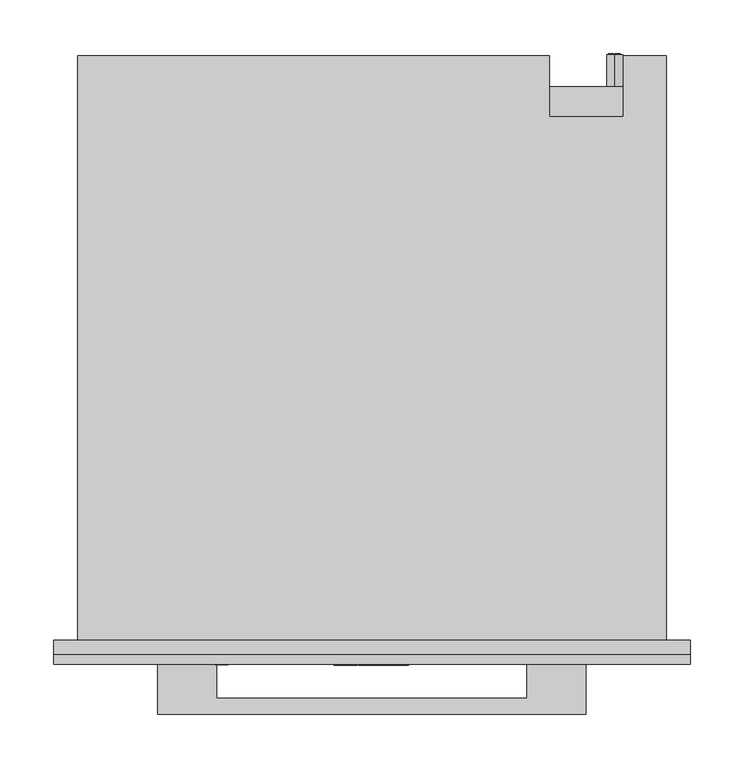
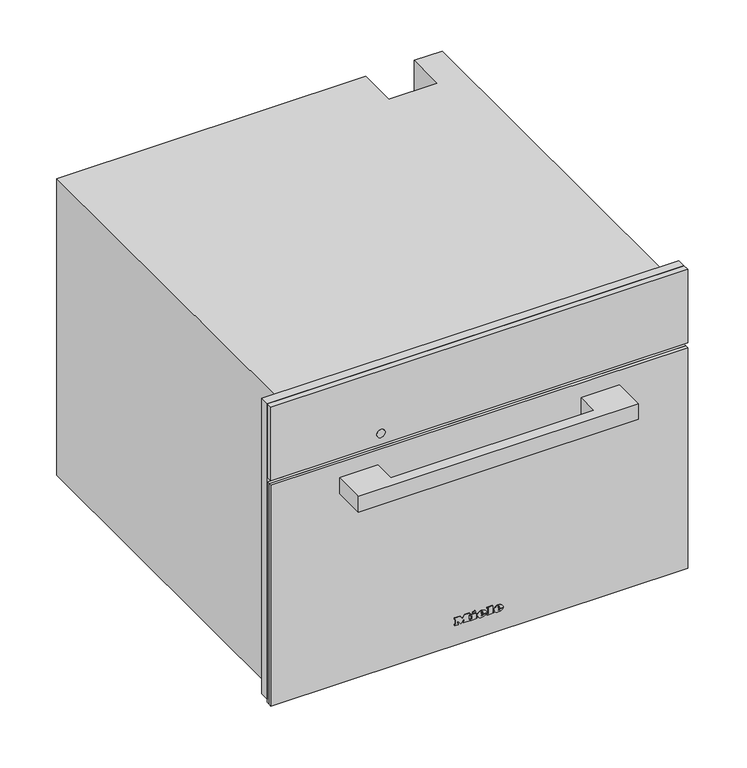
"""IFC4 building model written with IfcOpenShell, lengths in millimetres: proxy geometry, 12095020_F_DGC7840HCPro_OBSW : 23784028_F_12095020_DGC7840HCPro_OBSW."""

from ifc_helpers import new_model, si_unit, point, frame, frame_2d, origin, place, context, project, spatial, polyline, circle_curve, ellipse_curve, trimmed, segment, composite_curve, outline, extrude, faceted_brep, source, transform, mapped, element, save
from ifc_brep_helpers import plane_surface, cylinder_surface, revolved_surface, extruded_surface, advanced_brep


def specialty_equipment_197ef401(model_context):
    return source(origin(), model_context, "Body", "SolidModel", [
        extrude(outline(polyline([(455.0, 297.5), (455.0, -297.5), (9.0, -297.5), (9.0, 297.5), (455.0, 297.5)]), holes=[polyline([(344.0, -272.5), (344.0, 272.5), (27.0, 272.5), (27.0, -272.5), (344.0, -272.5)])]), frame((0.0, -13.0, 0.0), z_axis=(0.0, 1.0, 0.0), x_axis=(0.0, 0.0, 1.0)), (0.0, 0.0, 1.0), 13.0),
        advanced_brep(
        [(227.0, 547.0, 255.5), (227.0, 547.0, 240.5), (221.4098301, 547.0, 243.0), (225.5, 547.0, 243.0), (225.5, 547.0, 253.0), (224.4955303, 547.0, 253.0), (224.4955303, 547.0, 244.0), (221.0315043, 547.0, 244.0), (221.0315043, 547.0, 243.4582978), (232.0, 547.0, 243.0), (232.0, 547.0, 253.0), (227.0, 547.0, 253.0), (227.0, 547.0, 252.0), (231.0, 547.0, 252.0), (231.0, 547.0, 248.5), (228.0, 547.0, 248.5), (228.0, 547.0, 247.5), (231.0, 547.0, 247.5), (231.0, 547.0, 244.0), (227.0, 547.0, 244.0), (227.0, 547.0, 243.0), (227.0, 517.0, 240.5), (227.0, 517.0, 255.5), (232.0, 548.0, 253.0), (232.0, 548.0, 243.0), (227.0, 548.0, 243.0), (227.0, 548.0, 244.0), (231.0, 548.0, 244.0), (231.0, 548.0, 247.5), (228.0, 548.0, 247.5), (228.0, 548.0, 248.5), (231.0, 548.0, 248.5), (231.0, 548.0, 252.0), (227.0, 548.0, 252.0), (227.0, 548.0, 253.0), (225.5, 548.0, 243.0), (221.0315043, 548.0, 243.0), (221.0315043, 548.0, 244.0), (224.4955303, 548.0, 244.0), (224.4955303, 548.0, 253.0), (225.5, 548.0, 253.0), (221.0315043, 547.0, 243.0)],
        [
            (0, 1, circle_curve(frame((227.0, 547.0, 248.0), z_axis=(0.0, 1.0, 0.0), x_axis=(0.0, 0.0, 1.0)), 7.5)),
            (1, 2, circle_curve(frame((227.0, 547.0, 248.0), z_axis=(0.0, 1.0, 0.0), x_axis=(0.0, 0.0, 1.0)), 7.5)),
            (2, 3),
            (3, 4),
            (4, 5),
            (5, 6),
            (6, 7),
            (7, 8),
            (8, 0, circle_curve(frame((227.0, 547.0, 248.0), z_axis=(0.0, 1.0, 0.0), x_axis=(0.0, 0.0, 1.0)), 7.5)),
            (9, 10),
            (10, 11),
            (11, 12),
            (12, 13),
            (13, 14),
            (14, 15),
            (15, 16),
            (16, 17),
            (17, 18),
            (18, 19),
            (19, 20),
            (20, 9),
            (21, 22, circle_curve(frame((227.0, 517.0, 248.0), z_axis=(0.0, -1.0, 0.0), x_axis=(0.0, 0.0, 1.0)), 7.5)),
            (22, 21, circle_curve(frame((227.0, 517.0, 248.0), z_axis=(0.0, -1.0, 0.0), x_axis=(0.0, 0.0, 1.0)), 7.5)),
            (0, 22),
            (21, 1),
            (8, 2, circle_curve(frame((227.0, 547.0, 248.0), z_axis=(0.0, -1.0, 0.0), x_axis=(0.0, 0.0, 1.0)), 7.5)),
            (23, 24),
            (24, 25),
            (25, 26),
            (26, 27),
            (27, 28),
            (28, 29),
            (29, 30),
            (30, 31),
            (31, 32),
            (32, 33),
            (33, 34),
            (34, 23),
            (35, 36),
            (36, 37),
            (37, 38),
            (38, 39),
            (39, 40),
            (40, 35),
            (8, 41),
            (41, 2),
            (23, 10),
            (9, 24),
            (20, 25),
            (19, 26),
            (18, 27),
            (17, 28),
            (16, 29),
            (15, 30),
            (14, 31),
            (13, 32),
            (12, 33),
            (11, 34),
            (35, 3),
            (41, 36),
            (7, 37),
            (6, 38),
            (5, 39),
            (4, 40),
        ],
        [
            plane_surface(frame((227.0, 547.0, 255.5), z_axis=(0.0, 1.0, 0.0), x_axis=(1.0, 0.0, 0.0))),
            plane_surface(frame((227.0, 517.0, 255.5), z_axis=(0.0, -1.0, 0.0), x_axis=(-1.0, 0.0, 0.0))),
            cylinder_surface(frame((227.0, 547.0, 248.0), z_axis=(0.0, -1.0, 0.0), x_axis=(0.0, 0.0, 1.0)), 7.5),
            plane_surface(frame((232.0, 548.0, 253.0), z_axis=(0.0, 1.0, 0.0), x_axis=(0.0, 0.0, -1.0))),
            plane_surface(frame((232.0, 547.0, 253.0), z_axis=(0.0, -1.0, 0.0), x_axis=(0.0, 0.0, 1.0))),
            plane_surface(frame((232.0, 548.0, 253.0), z_axis=(1.0, 0.0, 0.0), x_axis=(0.0, -1.0, 0.0))),
            plane_surface(frame((232.0, 548.0, 243.0), z_axis=(0.0, 0.0, -1.0), x_axis=(0.0, -1.0, 0.0))),
            plane_surface(frame((227.0, 548.0, 243.0), z_axis=(-1.0, 0.0, 0.0), x_axis=(0.0, -1.0, 0.0))),
            plane_surface(frame((227.0, 548.0, 244.0), z_axis=(0.0, 0.0, 1.0), x_axis=(0.0, -1.0, 0.0))),
            plane_surface(frame((231.0, 548.0, 244.0), z_axis=(-1.0, 0.0, 0.0), x_axis=(0.0, -1.0, 0.0))),
            plane_surface(frame((231.0, 548.0, 247.5), z_axis=(0.0, 0.0, -1.0), x_axis=(0.0, -1.0, 0.0))),
            plane_surface(frame((228.0, 548.0, 247.5), z_axis=(-1.0, 0.0, 0.0), x_axis=(0.0, -1.0, 0.0))),
            plane_surface(frame((228.0, 548.0, 248.5), z_axis=(0.0, 0.0, 1.0), x_axis=(0.0, -1.0, 0.0))),
            plane_surface(frame((231.0, 548.0, 248.5), z_axis=(-1.0, 0.0, 0.0), x_axis=(0.0, -1.0, 0.0))),
            plane_surface(frame((231.0, 548.0, 252.0), z_axis=(0.0, 0.0, -1.0), x_axis=(0.0, -1.0, 0.0))),
            plane_surface(frame((227.0, 548.0, 252.0), z_axis=(-1.0, 0.0, 0.0), x_axis=(0.0, -1.0, 0.0))),
            plane_surface(frame((227.0, 548.0, 253.0), z_axis=(0.0, 0.0, 1.0), x_axis=(0.0, -1.0, 0.0))),
            plane_surface(frame((225.5, 548.0, 243.0), z_axis=(0.0, 0.0, -1.0), x_axis=(0.0, -1.0, 0.0))),
            plane_surface(frame((221.0315043, 548.0, 243.0), z_axis=(-1.0, 0.0, 0.0), x_axis=(0.0, -1.0, 0.0))),
            plane_surface(frame((221.0315043, 548.0, 244.0), z_axis=(0.0, 0.0, 1.0), x_axis=(0.0, -1.0, 0.0))),
            plane_surface(frame((224.4955303, 548.0, 244.0), z_axis=(-1.0, 0.0, 0.0), x_axis=(0.0, -1.0, 0.0))),
            plane_surface(frame((224.4955303, 548.0, 253.0), z_axis=(0.0, 0.0, 1.0), x_axis=(0.0, -1.0, 0.0))),
            plane_surface(frame((225.5, 548.0, 253.0), z_axis=(1.0, 0.0, 0.0), x_axis=(0.0, -1.0, 0.0))),
        ],
        [
            (0, [[1, 2, 3, 4, 5, 6, 7, 8, 9], [10, 11, 12, 13, 14, 15, 16, 17, 18, 19, 20, 21]]),
            (1, [[22, 23]]),
            (2, [[-1, 24, -22, 25]]),
            (2, [[-23, -24, -9, 26, -2, -25]]),
            (3, [[27, 28, 29, 30, 31, 32, 33, 34, 35, 36, 37, 38]]),
            (3, [[39, 40, 41, 42, 43, 44]]),
            (4, [[45, 46, -26]]),
            (5, [[-27, 47, -10, 48]]),
            (6, [[-28, -48, -21, 49]]),
            (7, [[-29, -49, -20, 50]]),
            (8, [[-30, -50, -19, 51]]),
            (9, [[-31, -51, -18, 52]]),
            (10, [[-32, -52, -17, 53]]),
            (11, [[-33, -53, -16, 54]]),
            (12, [[-34, -54, -15, 55]]),
            (13, [[-35, -55, -14, 56]]),
            (14, [[-36, -56, -13, 57]]),
            (15, [[-37, -57, -12, 58]]),
            (16, [[-38, -58, -11, -47]]),
            (17, [[-39, 59, -3, -46, 60]]),
            (18, [[-40, -60, -45, -8, 61]]),
            (19, [[-41, -61, -7, 62]]),
            (20, [[-42, -62, -6, 63]]),
            (21, [[-43, -63, -5, 64]]),
            (22, [[-44, -64, -4, -59]]),
        ],
    ),
        faceted_brep([(-275.0, 546.0, 0.0), (-275.0, 546.0, 448.0), (166.0, 546.0, 448.0), (166.0, 546.0, 0.0), (235.0, 546.0, 448.0), (275.0, 546.0, 448.0), (275.0, 546.0, 338.0), (235.0, 546.0, 338.0), (275.0, 0.0, 448.0), (-275.0, 0.0, 448.0), (-275.0, 0.0, 0.0), (275.0, 0.0, 0.0), (-272.5, 0.0, 344.0), (272.5, 0.0, 344.0), (272.5, 0.0, 27.0), (-272.5, 0.0, 27.0), (235.0, 489.0, 448.0), (166.0, 489.0, 448.0), (166.0, 517.0, 0.0), (275.0, 517.0, 0.0), (275.0, 517.0, 338.0), (272.5, 17.0, 344.0), (-272.5, 17.0, 344.0), (-272.5, 17.0, 27.0), (272.5, 17.0, 27.0), (231.0, 17.0, 307.0), (231.0, 17.0, 65.0), (-231.0, 17.0, 65.0), (-231.0, 17.0, 307.0), (231.0, 411.0, 307.0), (-231.0, 411.0, 307.0), (-231.0, 411.0, 65.0), (231.0, 411.0, 65.0), (235.0, 489.0, 337.0), (166.0, 489.0, 337.0), (166.0, 517.0, 337.0), (235.0, 517.0, 337.0), (235.0, 517.0, 338.0)], [[[0, 1, 2, 3]], [[4, 5, 6, 7]], [[8, 9, 10, 11], [12, 13, 14, 15]], [[9, 8, 5, 4, 16, 17, 2, 1]], [[1, 0, 10, 9]], [[11, 10, 0, 3, 18, 19]], [[8, 11, 19, 20, 6, 5]], [[21, 22, 23, 24], [25, 26, 27, 28]], [[22, 21, 13, 12]], [[23, 22, 12, 15]], [[24, 23, 15, 14]], [[21, 24, 14, 13]], [[29, 30, 31, 32]], [[29, 32, 26, 25]], [[32, 31, 27, 26]], [[31, 30, 28, 27]], [[30, 29, 25, 28]], [[16, 33, 34, 17]], [[17, 34, 35, 18, 3, 2]], [[34, 33, 36, 35]], [[33, 16, 4, 7, 37, 36]], [[37, 20, 19, 18, 35, 36]], [[20, 37, 7, 6]]]),
        advanced_brep(
        [(26.2998, -23.0, 36.7018), (26.2998, -23.0, 37.8532), (33.9264, -23.0, 37.8532), (20.6568, -23.0, 37.8532), (23.7918, -23.0, 34.0), (33.7326, -23.0, 36.7018), (30.2898, -23.0, 36.7018), (27.5766, -23.0, 35.425), (26.2998, -23.0, 39.3124), (26.2998, -23.0, 40.555), (28.2492, -23.0, 40.555), (28.2492, -23.0, 39.3124), (26.2998, -22.0, 36.7018), (27.5766, -22.0, 35.425), (30.2898, -22.0, 36.7018), (33.7326, -22.0, 36.7018), (23.7918, -22.0, 34.0), (20.6568, -22.0, 37.8532), (33.9264, -22.0, 37.8532), (26.2998, -22.0, 37.8532), (26.2998, -22.0, 39.3124), (28.2492, -22.0, 39.3124), (28.2492, -22.0, 40.555), (26.2998, -22.0, 40.555)],
        [
            (0, 1),
            (1, 2),
            (2, 3, ellipse_curve(frame((27.2916, -23.0, 37.8532), z_axis=(0.0, -1.0, 0.0), x_axis=(-1.0, 0.0, 0.0)), 6.6348, 5.4834)),
            (3, 4, circle_curve(frame((25.0686622, -23.0, 38.2408), z_axis=(0.0, -1.0, 0.0), x_axis=(0.0, 0.0, -1.0)), 4.4288556)),
            (4, 5, circle_curve(frame((27.1587808, -23.0, 41.2504), z_axis=(0.0, -1.0, 0.0), x_axis=(0.0, 0.0, -1.0)), 7.9940516)),
            (5, 6),
            (6, 7, circle_curve(frame((28.1338588, -23.0, 37.762), z_axis=(0.0, 1.0, 0.0), x_axis=(0.0, 0.0, -1.0)), 2.4025208)),
            (7, 0, circle_curve(frame((27.5766, -23.0, 36.7018), z_axis=(0.0, 1.0, 0.0), x_axis=(0.0, 0.0, -1.0)), 1.2768)),
            (8, 9),
            (9, 10, circle_curve(frame((27.2745, -23.0, 40.555), z_axis=(0.0, 1.0, 0.0), x_axis=(0.0, 0.0, -1.0)), 0.9747)),
            (10, 11),
            (11, 8),
            (12, 13, circle_curve(frame((27.5766, -22.0, 36.7018), z_axis=(0.0, -1.0, 0.0), x_axis=(0.0, 0.0, -1.0)), 1.2768)),
            (13, 14, circle_curve(frame((28.1338588, -22.0, 37.762), z_axis=(0.0, -1.0, 0.0), x_axis=(0.0, 0.0, -1.0)), 2.4025208)),
            (14, 15),
            (15, 16, circle_curve(frame((27.1587808, -22.0, 41.2504), z_axis=(0.0, 1.0, 0.0), x_axis=(0.0, 0.0, -1.0)), 7.9940516)),
            (16, 17, circle_curve(frame((25.0686622, -22.0, 38.2408), z_axis=(0.0, 1.0, 0.0), x_axis=(0.0, 0.0, -1.0)), 4.4288556)),
            (17, 18, ellipse_curve(frame((27.2916, -22.0, 37.8532), z_axis=(0.0, 1.0, 0.0), x_axis=(-1.0, 0.0, 0.0)), 6.6348, 5.4834)),
            (18, 19),
            (19, 12),
            (20, 21),
            (21, 22),
            (22, 23, circle_curve(frame((27.2745, -22.0, 40.555), z_axis=(0.0, -1.0, 0.0), x_axis=(0.0, 0.0, -1.0)), 0.9747)),
            (23, 20),
            (0, 12),
            (19, 1),
            (18, 2),
            (5, 15),
            (14, 6),
            (17, 3),
            (13, 7),
            (16, 4),
            (8, 20),
            (23, 9),
            (22, 10),
            (21, 11),
        ],
        [
            plane_surface(frame((26.2998, -23.0, 37.8532), z_axis=(0.0, -1.0, 0.0), x_axis=(0.0, 0.0, 1.0))),
            plane_surface(frame((26.2998, -22.0, 37.8532), z_axis=(0.0, 1.0, 0.0), x_axis=(0.0, 0.0, -1.0))),
            plane_surface(frame((26.2998, -23.0, 36.7018), z_axis=(1.0, 0.0, 0.0), x_axis=(0.0, 1.0, 0.0))),
            plane_surface(frame((26.2998, -23.0, 37.8532), z_axis=(0.0, 0.0, -1.0), x_axis=(0.0, 1.0, 0.0))),
            plane_surface(frame((33.7326, -23.0, 36.7018), z_axis=(0.0, 0.0, 1.0), x_axis=(0.0, 1.0, 0.0))),
            extruded_surface(trimmed(ellipse_curve(frame((27.2916, -21.0, 37.8532), z_axis=(0.0, -1.0, 0.0), x_axis=(-1.0, 0.0, 0.0)), 6.6348, 5.4834), [point((33.9264, -21.0, 37.8532))], [point((20.6568, -21.0, 37.8532))], True, "CARTESIAN"), (0.0, -1.0, 0.0), 1.0),
            revolved_surface(polyline([(28.1338588, -22.0, 35.3594792), (28.1338588, -23.0, 35.3594792)]), (28.1338588, -22.0, 37.762), (0.0, 1.0, 0.0)),
            revolved_surface(polyline([(27.5766, -22.0, 35.425), (27.5766, -23.0, 35.425)]), (27.5766, -22.0, 36.7018), (0.0, 1.0, 0.0)),
            cylinder_surface(frame((25.0686622, -22.0, 38.2408), z_axis=(0.0, -1.0, 0.0), x_axis=(0.0, 0.0, -1.0)), 4.4288556),
            cylinder_surface(frame((27.1587808, -22.0, 41.2504), z_axis=(0.0, -1.0, 0.0), x_axis=(0.0, 0.0, -1.0)), 7.9940516),
            plane_surface(frame((26.2998, -23.0, 39.3124), z_axis=(1.0, 0.0, 0.0), x_axis=(0.0, 1.0, 0.0))),
            revolved_surface(polyline([(27.2745, -22.0, 39.5803), (27.2745, -23.0, 39.5803)]), (27.2745, -22.0, 40.555), (0.0, 1.0, 0.0)),
            plane_surface(frame((28.2492, -23.0, 40.555), z_axis=(-1.0, 0.0, 0.0), x_axis=(0.0, 1.0, 0.0))),
            plane_surface(frame((28.2492, -23.0, 39.3124), z_axis=(0.0, 0.0, 1.0), x_axis=(0.0, 1.0, 0.0))),
        ],
        [
            (0, [[1, 2, 3, 4, 5, 6, 7, 8], [9, 10, 11, 12]]),
            (1, [[13, 14, 15, 16, 17, 18, 19, 20], [21, 22, 23, 24]]),
            (2, [[-1, 25, -20, 26]]),
            (3, [[-2, -26, -19, 27]]),
            (4, [[-6, 28, -15, 29]]),
            (5, [[-3, -27, -18, 30]]),
            (6, [[-7, -29, -14, 31]]),
            (7, [[-8, -31, -13, -25]]),
            (8, [[-4, -30, -17, 32]]),
            (9, [[-5, -32, -16, -28]]),
            (10, [[-9, 33, -24, 34]]),
            (11, [[-10, -34, -23, 35]]),
            (12, [[-11, -35, -22, 36]]),
            (13, [[-12, -36, -21, -33]]),
        ],
    ),
        advanced_brep(
        [(2.508, -23.0, 36.7018), (2.508, -23.0, 37.8532), (10.1346, -23.0, 37.8532), (-3.135, -23.0, 37.8532), (0.0, -23.0, 34.0), (9.9408, -23.0, 36.7018), (6.498, -23.0, 36.7018), (3.7848, -23.0, 35.425), (2.508, -23.0, 39.3124), (2.508, -23.0, 40.555), (4.4574, -23.0, 40.555), (4.4574, -23.0, 39.3124), (2.508, -22.0, 36.7018), (3.7848, -22.0, 35.425), (6.498, -22.0, 36.7018), (9.9408, -22.0, 36.7018), (0.0, -22.0, 34.0), (-3.135, -22.0, 37.8532), (10.1346, -22.0, 37.8532), (2.508, -22.0, 37.8532), (2.508, -22.0, 39.3124), (4.4574, -22.0, 39.3124), (4.4574, -22.0, 40.555), (2.508, -22.0, 40.555)],
        [
            (0, 1),
            (1, 2),
            (2, 3, ellipse_curve(frame((3.4998, -23.0, 37.8532), z_axis=(0.0, -1.0, 0.0), x_axis=(-1.0, 0.0, 0.0)), 6.6348, 5.4834)),
            (3, 4, circle_curve(frame((1.2768622, -23.0, 38.2408), z_axis=(0.0, -1.0, 0.0), x_axis=(0.0, 0.0, -1.0)), 4.4288556)),
            (4, 5, circle_curve(frame((3.3669808, -23.0, 41.2504), z_axis=(0.0, -1.0, 0.0), x_axis=(0.0, 0.0, -1.0)), 7.9940516)),
            (5, 6),
            (6, 7, circle_curve(frame((4.3420588, -23.0, 37.762), z_axis=(0.0, 1.0, 0.0), x_axis=(0.0, 0.0, -1.0)), 2.4025208)),
            (7, 0, circle_curve(frame((3.7848, -23.0, 36.7018), z_axis=(0.0, 1.0, 0.0), x_axis=(0.0, 0.0, -1.0)), 1.2768)),
            (8, 9),
            (9, 10, circle_curve(frame((3.4827, -23.0, 40.555), z_axis=(0.0, 1.0, 0.0), x_axis=(0.0, 0.0, -1.0)), 0.9747)),
            (10, 11),
            (11, 8),
            (12, 13, circle_curve(frame((3.7848, -22.0, 36.7018), z_axis=(0.0, -1.0, 0.0), x_axis=(0.0, 0.0, -1.0)), 1.2768)),
            (13, 14, circle_curve(frame((4.3420588, -22.0, 37.762), z_axis=(0.0, -1.0, 0.0), x_axis=(0.0, 0.0, -1.0)), 2.4025208)),
            (14, 15),
            (15, 16, circle_curve(frame((3.3669808, -22.0, 41.2504), z_axis=(0.0, 1.0, 0.0), x_axis=(0.0, 0.0, -1.0)), 7.9940516)),
            (16, 17, circle_curve(frame((1.2768622, -22.0, 38.2408), z_axis=(0.0, 1.0, 0.0), x_axis=(0.0, 0.0, -1.0)), 4.4288556)),
            (17, 18, ellipse_curve(frame((3.4998, -22.0, 37.8532), z_axis=(0.0, 1.0, 0.0), x_axis=(-1.0, 0.0, 0.0)), 6.6348, 5.4834)),
            (18, 19),
            (19, 12),
            (20, 21),
            (21, 22),
            (22, 23, circle_curve(frame((3.4827, -22.0, 40.555), z_axis=(0.0, -1.0, 0.0), x_axis=(0.0, 0.0, -1.0)), 0.9747)),
            (23, 20),
            (0, 12),
            (19, 1),
            (18, 2),
            (5, 15),
            (14, 6),
            (17, 3),
            (13, 7),
            (16, 4),
            (8, 20),
            (23, 9),
            (22, 10),
            (21, 11),
        ],
        [
            plane_surface(frame((2.508, -23.0, 37.8532), z_axis=(0.0, -1.0, 0.0), x_axis=(0.0, 0.0, 1.0))),
            plane_surface(frame((2.508, -22.0, 37.8532), z_axis=(0.0, 1.0, 0.0), x_axis=(0.0, 0.0, -1.0))),
            plane_surface(frame((2.508, -23.0, 36.7018), z_axis=(1.0, 0.0, 0.0), x_axis=(0.0, 1.0, 0.0))),
            plane_surface(frame((2.508, -23.0, 37.8532), z_axis=(0.0, 0.0, -1.0), x_axis=(0.0, 1.0, 0.0))),
            plane_surface(frame((9.9408, -23.0, 36.7018), z_axis=(0.0, 0.0, 1.0), x_axis=(0.0, 1.0, 0.0))),
            extruded_surface(trimmed(ellipse_curve(frame((3.4998, -21.0, 37.8532), z_axis=(0.0, -1.0, 0.0), x_axis=(-1.0, 0.0, 0.0)), 6.6348, 5.4834), [point((10.1346, -21.0, 37.8532))], [point((-3.135, -21.0, 37.8532))], True, "CARTESIAN"), (0.0, -1.0, 0.0), 1.0),
            revolved_surface(polyline([(4.3420588, -22.0, 35.3594792), (4.3420588, -23.0, 35.3594792)]), (4.3420588, -22.0, 37.762), (0.0, 1.0, 0.0)),
            revolved_surface(polyline([(3.7848, -22.0, 35.425), (3.7848, -23.0, 35.425)]), (3.7848, -22.0, 36.7018), (0.0, 1.0, 0.0)),
            cylinder_surface(frame((1.2768622, -22.0, 38.2408), z_axis=(0.0, -1.0, 0.0), x_axis=(0.0, 0.0, -1.0)), 4.4288556),
            cylinder_surface(frame((3.3669808, -22.0, 41.2504), z_axis=(0.0, -1.0, 0.0), x_axis=(0.0, 0.0, -1.0)), 7.9940516),
            plane_surface(frame((2.508, -23.0, 39.3124), z_axis=(1.0, 0.0, 0.0), x_axis=(0.0, 1.0, 0.0))),
            revolved_surface(polyline([(3.4827, -22.0, 39.5803), (3.4827, -23.0, 39.5803)]), (3.4827, -22.0, 40.555), (0.0, 1.0, 0.0)),
            plane_surface(frame((4.4574, -23.0, 40.555), z_axis=(-1.0, 0.0, 0.0), x_axis=(0.0, 1.0, 0.0))),
            plane_surface(frame((4.4574, -23.0, 39.3124), z_axis=(0.0, 0.0, 1.0), x_axis=(0.0, 1.0, 0.0))),
        ],
        [
            (0, [[1, 2, 3, 4, 5, 6, 7, 8], [9, 10, 11, 12]]),
            (1, [[13, 14, 15, 16, 17, 18, 19, 20], [21, 22, 23, 24]]),
            (2, [[-1, 25, -20, 26]]),
            (3, [[-2, -26, -19, 27]]),
            (4, [[-6, 28, -15, 29]]),
            (5, [[-3, -27, -18, 30]]),
            (6, [[-7, -29, -14, 31]]),
            (7, [[-8, -31, -13, -25]]),
            (8, [[-4, -30, -17, 32]]),
            (9, [[-5, -32, -16, -28]]),
            (10, [[-9, 33, -24, 34]]),
            (11, [[-10, -34, -23, 35]]),
            (12, [[-11, -35, -22, 36]]),
            (13, [[-12, -36, -21, -33]]),
        ],
    ),
        extrude(outline(polyline([(44.7274, -9.9522), (42.8806, -9.0858), (44.6818, -5.2212), (46.5286, -6.0762), (44.7274, -9.9522)])), frame((0.0, -23.0, 0.0), z_axis=(0.0, 1.0, 0.0), x_axis=(0.0, 0.0, 1.0)), (0.0, 0.0, 1.0), 1.0),
        extrude(outline(polyline([(42.6298, -12.768), (40.5892, -12.768), (40.5892, -11.4114), (35.9152, -11.4114), (35.9152, -12.768), (34.0, -12.768), (34.0, -3.7734), (35.9152, -3.7734), (35.9152, -5.0958), (42.6298, -5.0958), (42.6298, -12.768)])), frame((0.0, -23.0, 0.0), z_axis=(0.0, 1.0, 0.0), x_axis=(0.0, 0.0, 1.0)), (0.0, 0.0, 1.0), 1.0),
        extrude(outline(polyline([(43.5418, 10.773), (43.5418, 12.141), (35.9152, 12.141), (35.9152, 10.773), (34.0, 10.773), (34.0, 20.0184), (35.9152, 20.0184), (35.9152, 18.6162), (45.4, 18.6162), (45.4, 10.773), (43.5418, 10.773)])), frame((0.0, -23.0, 0.0), z_axis=(0.0, 1.0, 0.0), x_axis=(0.0, 0.0, 1.0)), (0.0, 0.0, 1.0), 1.0),
        extrude(outline(polyline([(43.5418, -35.4882), (43.5418, -34.1088), (35.9152, -34.1088), (35.9152, -35.4882), (34.0, -35.4882), (34.0, -30.4722), (35.9152, -30.4722), (35.9152, -31.8402), (40.7429247, -31.8402), (34.0, -26.7444), (40.9402223, -21.6258), (35.9152, -21.6258), (35.9152, -23.028), (34.0, -23.028), (34.0, -13.9308), (35.9152, -13.9308), (35.9152, -15.3786), (43.5418, -15.3786), (43.5418, -13.9308), (45.4, -13.9308), (45.4, -20.8734), (41.125, -24.2022), (45.4, -27.5424), (45.4, -35.4882), (43.5418, -35.4882)])), frame((0.0, -23.0, 0.0), z_axis=(0.0, 1.0, 0.0), x_axis=(0.0, 0.0, 1.0)), (0.0, 0.0, 1.0), 1.0),
        extrude(outline(polyline([(297.5, -22.0), (-297.5, -22.0), (-297.5, -13.0), (297.5, -13.0), (297.5, -22.0)])), frame((0.0, 0.0, 344.0), z_axis=(0.0, 0.0, 1.0), x_axis=(1.0, 0.0, 0.0)), (0.0, 0.0, 1.0), 111.0),
        extrude(outline(composite_curve([segment(trimmed(circle_curve(frame_2d((361.0, -140.5745637)), 6.0), [point((361.0, -146.5745637))], [point((361.0, -134.5745637))], False, "CARTESIAN"), True, "CONTINUOUS"), segment(trimmed(circle_curve(frame_2d((361.0, -140.5745637)), 6.0), [point((361.0, -134.5745637))], [point((361.0, -146.5745637))], False, "CARTESIAN"), True, "CONTINUOUS")], self_intersect=False)), frame((0.0, -22.5, 0.0), z_axis=(0.0, 1.0, 0.0), x_axis=(0.0, 0.0, 1.0)), (0.0, 0.0, 1.0), 1.0),
        extrude(outline(polyline([(-297.5, -18.0), (297.5, -18.0), (297.5, -22.0), (-297.5, -22.0), (-297.5, -18.0)])), frame((0.0, 0.0, 4.0), z_axis=(0.0, 0.0, 1.0), x_axis=(1.0, 0.0, 0.0)), (0.0, 0.0, 1.0), 333.0),
        extrude(outline(polyline([(297.5, -18.0), (-297.5, -18.0), (-297.5, -13.0), (297.5, -13.0), (297.5, -18.0)])), frame((0.0, 0.0, 4.0), z_axis=(0.0, 0.0, 1.0), x_axis=(1.0, 0.0, 0.0)), (0.0, 0.0, 1.0), 333.0),
        extrude(outline(polyline([(-200.0, -69.0), (-200.0, -22.0), (-145.0, -22.0), (-145.0, -54.0), (145.0, -54.0), (145.0, -22.0), (200.0, -22.0), (200.0, -69.0), (-200.0, -69.0)])), frame((0.0, 0.0, 291.0), z_axis=(0.0, 0.0, 1.0), x_axis=(1.0, 0.0, 0.0)), (0.0, 0.0, 1.0), 24.0),
    ])


if __name__ == "__main__":
    model = new_model("IFC4")
    model_context = context("Model", 3, world=origin())
    ifc_project = project(units=[si_unit("LENGTHUNIT", "METRE", prefix="MILLI")], contexts=[model_context])
    site = spatial("IfcSite", under=ifc_project)
    building = spatial("IfcBuilding", under=site)
    placement = place(None, origin())
    specialty_equipment_shape = specialty_equipment_197ef401(model_context)
    element("IfcBuildingElementProxy", 1, Name="12095020_F_DGC7840HCPro_OBSW : 23784028_F_12095020_DGC7840HCPro_OBSW", ObjectType="12095020_F_DGC7840HCPro_OBSW : 23784028_F_12095020_DGC7840HCPro_OBSW", at=placement, inside=building, context=model_context, shape_type="MappedRepresentation", body=[
        mapped(specialty_equipment_shape, transform((0.0, 0.0, 0.0), x_axis=(1.0, 0.0, 0.0), y_axis=(0.0, 1.0, 0.0), z_axis=(0.0, 0.0, 1.0))),
    ])
    save(model, "model.ifc")
